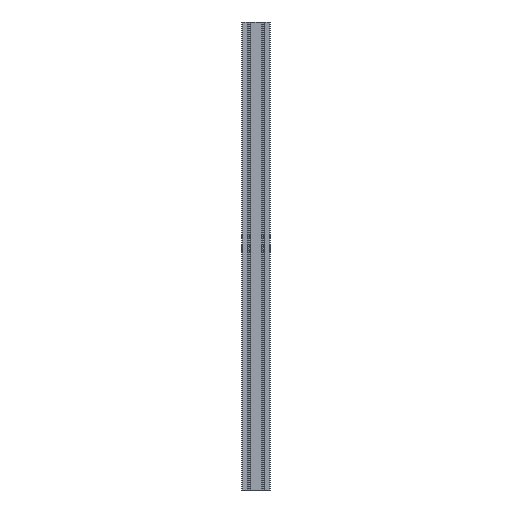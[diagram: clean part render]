
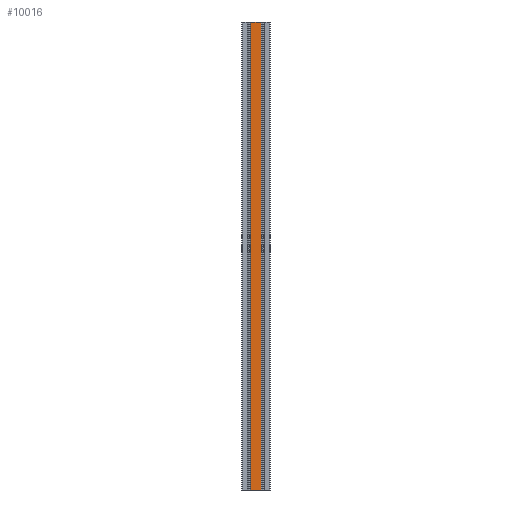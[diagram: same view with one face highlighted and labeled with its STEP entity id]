
A CAD part, front view. The second image highlights one B-rep face of the part: STEP entity #10016.
In plain terms, the highlighted planar face has unit normal (0, -1, 0).
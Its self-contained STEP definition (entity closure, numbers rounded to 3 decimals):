
#9958=CARTESIAN_POINT('',(281.406,139.944,1000.0));
#9959=VERTEX_POINT('',#9958);
#9967=CARTESIAN_POINT('',(281.406,139.944,0.0));
#9968=VERTEX_POINT('',#9967);
#9969=CARTESIAN_POINT('',(281.406,139.944,0.0));
#9970=DIRECTION('',(0.0,0.0,1.0));
#9971=VECTOR('',#9970,1000.0);
#9972=LINE('',#9969,#9971);
#9973=EDGE_CURVE('',#9968,#9959,#9972,.T.);
#9986=CARTESIAN_POINT('',(281.406,139.944,0.0));
#9987=DIRECTION('',(0.0,-1.0,0.0));
#9988=DIRECTION('',(0.0,0.0,-1.0));
#9989=AXIS2_PLACEMENT_3D('',#9986,#9987,#9988);
#9990=PLANE('',#9989);
#9991=CARTESIAN_POINT('',(258.706,139.944,1000.0));
#9992=VERTEX_POINT('',#9991);
#9993=CARTESIAN_POINT('',(281.406,139.944,1000.0));
#9994=DIRECTION('',(-1.0,0.0,0.0));
#9995=VECTOR('',#9994,22.7);
#9996=LINE('',#9993,#9995);
#9997=EDGE_CURVE('',#9959,#9992,#9996,.T.);
#9998=ORIENTED_EDGE('',*,*,#9997,.T.);
#9999=CARTESIAN_POINT('',(258.706,139.944,0.0));
#10000=VERTEX_POINT('',#9999);
#10001=CARTESIAN_POINT('',(258.706,139.944,0.0));
#10002=DIRECTION('',(0.0,0.0,1.0));
#10003=VECTOR('',#10002,1000.0);
#10004=LINE('',#10001,#10003);
#10005=EDGE_CURVE('',#10000,#9992,#10004,.T.);
#10006=ORIENTED_EDGE('',*,*,#10005,.F.);
#10007=CARTESIAN_POINT('',(258.706,139.944,0.0));
#10008=DIRECTION('',(1.0,0.0,0.0));
#10009=VECTOR('',#10008,22.7);
#10010=LINE('',#10007,#10009);
#10011=EDGE_CURVE('',#10000,#9968,#10010,.T.);
#10012=ORIENTED_EDGE('',*,*,#10011,.T.);
#10013=ORIENTED_EDGE('',*,*,#9973,.T.);
#10014=EDGE_LOOP('',(#9998,#10006,#10012,#10013));
#10015=FACE_OUTER_BOUND('',#10014,.T.);
#10016=ADVANCED_FACE('',(#10015),#9990,.T.);
